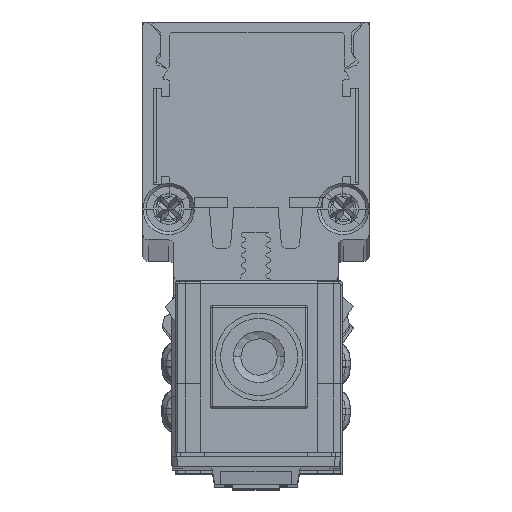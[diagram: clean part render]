
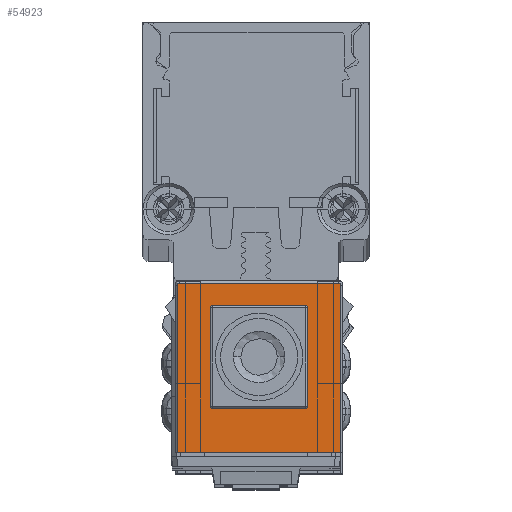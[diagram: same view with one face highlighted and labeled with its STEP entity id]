
A CAD part, top view. The second image highlights one B-rep face of the part: STEP entity #54923.
In plain terms, the highlighted planar face has unit normal (0, 0, 1) as drawn and (-1, 0, 0) by its records, which use the part's own axes.
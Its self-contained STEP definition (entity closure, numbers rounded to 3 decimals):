
#2316 = DIRECTION ( 'NONE',  ( 0., 1., 0. ) ) ;
#3112 = DIRECTION ( 'NONE',  ( 0., 1., 0. ) ) ;
#5977 = EDGE_CURVE ( 'NONE', #47523, #90165, #74012, .T. ) ;
#6991 = EDGE_CURVE ( 'NONE', #48954, #69170, #36677, .T. ) ;
#7396 = CARTESIAN_POINT ( 'NONE',  ( -6.5, 4.75, 16.7 ) ) ;
#7442 = CARTESIAN_POINT ( 'NONE',  ( -6.5, 8.15, 0.2 ) ) ;
#8471 = CARTESIAN_POINT ( 'NONE',  ( -6.5, 7.95, 16.7 ) ) ;
#9154 = CARTESIAN_POINT ( 'NONE',  ( -6.5, -4.55, 12.2 ) ) ;
#9841 = ORIENTED_EDGE ( 'NONE', *, *, #12268, .F. ) ;
#10519 = EDGE_CURVE ( 'NONE', #83343, #91496, #74058, .T. ) ;
#10578 = CARTESIAN_POINT ( 'NONE',  ( -6.5, -7.95, 16.7 ) ) ;
#11243 = CARTESIAN_POINT ( 'NONE',  ( -6.5, -4.55, 12.4 ) ) ;
#11949 = VECTOR ( 'NONE', #37073, 1000. ) ;
#12268 = EDGE_CURVE ( 'NONE', #91496, #67588, #51496, .T. ) ;
#12493 = CARTESIAN_POINT ( 'NONE',  ( -6.5, 8.15, 12.4 ) ) ;
#14498 = DIRECTION ( 'NONE',  ( 0., 0., 1. ) ) ;
#16170 = VECTOR ( 'NONE', #42189, 1000. ) ;
#17229 = DIRECTION ( 'NONE',  ( 0., 1., 0. ) ) ;
#19700 = ORIENTED_EDGE ( 'NONE', *, *, #79067, .F. ) ;
#22244 = VECTOR ( 'NONE', #40278, 1000. ) ;
#24117 = ORIENTED_EDGE ( 'NONE', *, *, #10519, .F. ) ;
#24517 = PLANE ( 'NONE',  #79812 ) ;
#25401 = ORIENTED_EDGE ( 'NONE', *, *, #38630, .F. ) ;
#25702 = CARTESIAN_POINT ( 'NONE',  ( -6.5, 0., 16.7 ) ) ;
#26380 = ORIENTED_EDGE ( 'NONE', *, *, #47675, .F. ) ;
#27459 = LINE ( 'NONE', #57129, #70776 ) ;
#27540 = VERTEX_POINT ( 'NONE', #47038 ) ;
#28455 = AXIS2_PLACEMENT_3D ( 'NONE', #40077, #69713, #3112 ) ;
#29181 = EDGE_LOOP ( 'NONE', ( #24117, #26380, #25401, #9841 ) ) ;
#29418 = ORIENTED_EDGE ( 'NONE', *, *, #53823, .F. ) ;
#30117 = LINE ( 'NONE', #59771, #75327 ) ;
#31715 = EDGE_LOOP ( 'NONE', ( #67315, #40525, #29418, #94995, #19700, #55751, #91675, #39308 ) ) ;
#32223 = VERTEX_POINT ( 'NONE', #78685 ) ;
#35813 = AXIS2_PLACEMENT_3D ( 'NONE', #39299, #68932, #2316 ) ;
#36677 = CIRCLE ( 'NONE', #90990, 0.2 ) ;
#37073 = DIRECTION ( 'NONE',  ( 0., 0., -1. ) ) ;
#37118 = DIRECTION ( 'NONE',  ( 0., 1., 0. ) ) ;
#38630 = EDGE_CURVE ( 'NONE', #67588, #50398, #92299, .T. ) ;
#38847 = DIRECTION ( 'NONE',  ( -1., 0., 0. ) ) ;
#39079 = VECTOR ( 'NONE', #55410, 1000. ) ;
#39299 = CARTESIAN_POINT ( 'NONE',  ( -6.5, 4.55, 2.6 ) ) ;
#39301 = AXIS2_PLACEMENT_3D ( 'NONE', #85203, #41008, #70631 ) ;
#39308 = ORIENTED_EDGE ( 'NONE', *, *, #93175, .F. ) ;
#40077 = CARTESIAN_POINT ( 'NONE',  ( -6.5, -4.55, 2.6 ) ) ;
#40278 = DIRECTION ( 'NONE',  ( 0., 0., -1. ) ) ;
#40525 = ORIENTED_EDGE ( 'NONE', *, *, #85009, .F. ) ;
#41008 = DIRECTION ( 'NONE',  ( -1., 0., 0. ) ) ;
#42189 = DIRECTION ( 'NONE',  ( 0., 1., 0. ) ) ;
#43352 = CARTESIAN_POINT ( 'NONE',  ( -6.5, 7.95, 0.2 ) ) ;
#46255 = CARTESIAN_POINT ( 'NONE',  ( -6.5, -4.75, 2.6 ) ) ;
#47038 = CARTESIAN_POINT ( 'NONE',  ( -6.5, -4.55, 2.4 ) ) ;
#47523 = VERTEX_POINT ( 'NONE', #89367 ) ;
#47675 = EDGE_CURVE ( 'NONE', #50398, #83343, #77187, .T. ) ;
#48954 = VERTEX_POINT ( 'NONE', #72304 ) ;
#50398 = VERTEX_POINT ( 'NONE', #71348 ) ;
#51496 = LINE ( 'NONE', #81111, #76137 ) ;
#53823 = EDGE_CURVE ( 'NONE', #27540, #63410, #70372, .T. ) ;
#54219 = CARTESIAN_POINT ( 'NONE',  ( -6.5, 8.15, 16.7 ) ) ;
#54923 = ADVANCED_FACE ( 'NONE', ( #61478, #91101 ), #24517, .F. ) ;
#55410 = DIRECTION ( 'NONE',  ( 0., -1., 0. ) ) ;
#55751 = ORIENTED_EDGE ( 'NONE', *, *, #5977, .F. ) ;
#57129 = CARTESIAN_POINT ( 'NONE',  ( -6.5, 8.15, 2.4 ) ) ;
#59771 = CARTESIAN_POINT ( 'NONE',  ( -6.5, -4.75, 16.7 ) ) ;
#61478 = FACE_BOUND ( 'NONE', #31715, .T. ) ;
#63410 = VERTEX_POINT ( 'NONE', #46255 ) ;
#65484 = CARTESIAN_POINT ( 'NONE',  ( -6.5, -7.95, 0.2 ) ) ;
#67104 = CARTESIAN_POINT ( 'NONE',  ( -6.5, 4.55, 12.4 ) ) ;
#67315 = ORIENTED_EDGE ( 'NONE', *, *, #6991, .F. ) ;
#67588 = VERTEX_POINT ( 'NONE', #8471 ) ;
#68499 = DIRECTION ( 'NONE',  ( 0., 1., 0. ) ) ;
#68932 = DIRECTION ( 'NONE',  ( -1., 0., 0. ) ) ;
#69170 = VERTEX_POINT ( 'NONE', #11243 ) ;
#69713 = DIRECTION ( 'NONE',  ( -1., 0., 0. ) ) ;
#70372 = CIRCLE ( 'NONE', #28455, 0.2 ) ;
#70631 = DIRECTION ( 'NONE',  ( 0., 1., 0. ) ) ;
#70776 = VECTOR ( 'NONE', #86751, 1000. ) ;
#71348 = CARTESIAN_POINT ( 'NONE',  ( -6.5, -7.95, 16.7 ) ) ;
#72304 = CARTESIAN_POINT ( 'NONE',  ( -6.5, -4.75, 12.2 ) ) ;
#74012 = LINE ( 'NONE', #7396, #11949 ) ;
#74058 = LINE ( 'NONE', #7442, #94586 ) ;
#75327 = VECTOR ( 'NONE', #89388, 1000. ) ;
#75489 = EDGE_CURVE ( 'NONE', #32223, #27540, #27459, .T. ) ;
#75977 = CARTESIAN_POINT ( 'NONE',  ( -6.5, 4.75, 2.6 ) ) ;
#76137 = VECTOR ( 'NONE', #14498, 1000. ) ;
#77187 = LINE ( 'NONE', #10578, #22244 ) ;
#77729 = CIRCLE ( 'NONE', #35813, 0.2 ) ;
#78685 = CARTESIAN_POINT ( 'NONE',  ( -6.5, 4.55, 2.4 ) ) ;
#79067 = EDGE_CURVE ( 'NONE', #90165, #32223, #77729, .T. ) ;
#79109 = LINE ( 'NONE', #12493, #16170 ) ;
#79812 = AXIS2_PLACEMENT_3D ( 'NONE', #54219, #83818, #17229 ) ;
#80409 = VERTEX_POINT ( 'NONE', #67104 ) ;
#81111 = CARTESIAN_POINT ( 'NONE',  ( -6.5, 7.95, 16.7 ) ) ;
#81170 = CIRCLE ( 'NONE', #39301, 0.2 ) ;
#83343 = VERTEX_POINT ( 'NONE', #65484 ) ;
#83818 = DIRECTION ( 'NONE',  ( 1., 0., 0. ) ) ;
#84672 = EDGE_CURVE ( 'NONE', #80409, #47523, #81170, .T. ) ;
#85009 = EDGE_CURVE ( 'NONE', #63410, #48954, #30117, .T. ) ;
#85203 = CARTESIAN_POINT ( 'NONE',  ( -6.5, 4.55, 12.2 ) ) ;
#86751 = DIRECTION ( 'NONE',  ( 0., -1., 0. ) ) ;
#89367 = CARTESIAN_POINT ( 'NONE',  ( -6.5, 4.75, 12.2 ) ) ;
#89388 = DIRECTION ( 'NONE',  ( 0., 0., 1. ) ) ;
#90165 = VERTEX_POINT ( 'NONE', #75977 ) ;
#90990 = AXIS2_PLACEMENT_3D ( 'NONE', #9154, #38847, #68499 ) ;
#91101 = FACE_OUTER_BOUND ( 'NONE', #29181, .T. ) ;
#91496 = VERTEX_POINT ( 'NONE', #43352 ) ;
#91675 = ORIENTED_EDGE ( 'NONE', *, *, #84672, .F. ) ;
#92299 = LINE ( 'NONE', #25702, #39079 ) ;
#93175 = EDGE_CURVE ( 'NONE', #69170, #80409, #79109, .T. ) ;
#94586 = VECTOR ( 'NONE', #37118, 1000. ) ;
#94995 = ORIENTED_EDGE ( 'NONE', *, *, #75489, .F. ) ;
